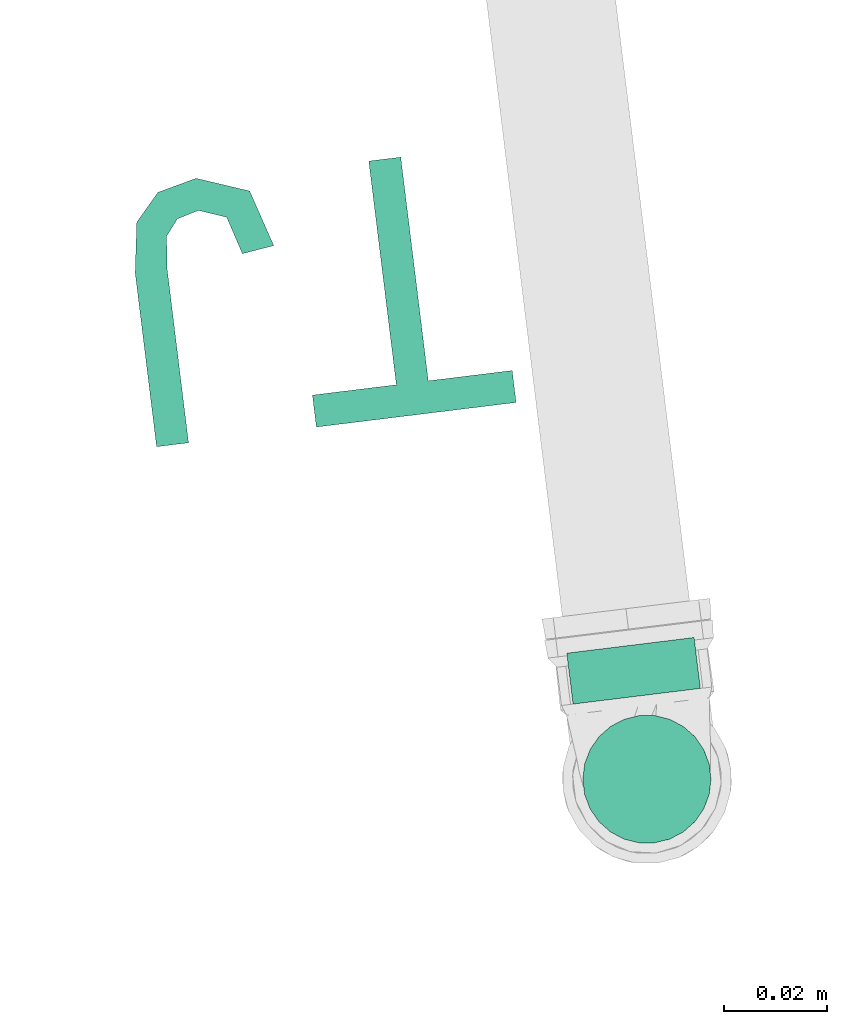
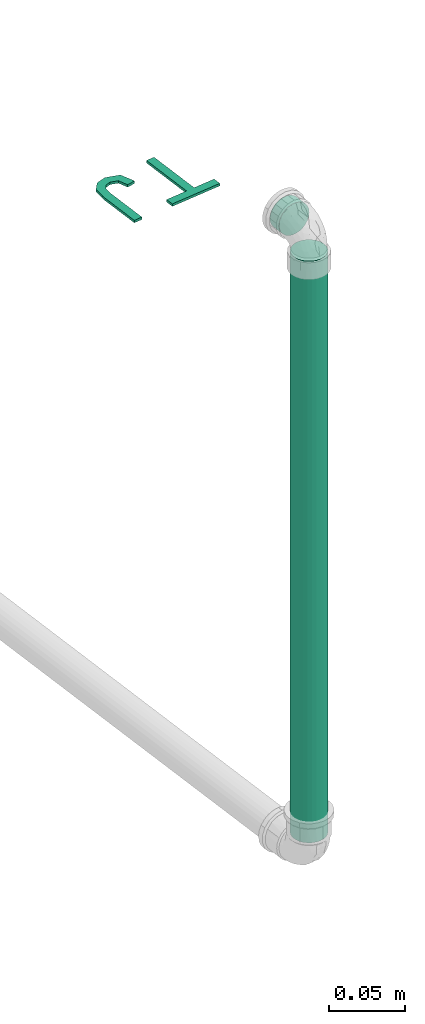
# One storey, part 59 of 97: 1 flow segment, 1 flow terminal.
"""IFC2X3 building model written with IfcOpenShell, lengths in centimetres."""

from ifc_helpers import new_model, entity, si_unit, converted_unit, derived_unit, direction, frame, frame_2d, origin, origin_2d_with_axis, place, context, subcontext, project, spatial, polyline, circle, outline, extrude, source, transform, mapped, material, material_list, type_object, type_shapes, element, save


model = new_model("IFC2X3")

# Units and contexts
model_context = context("Model", 3, precision=0.001, world=origin(), true_north=direction((6.12303176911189e-17, 1.0)))
body_context = subcontext(model_context, "Body", "Model", "MODEL_VIEW")
ifc_project = project(units=[si_unit("LENGTHUNIT", "METRE", prefix="CENTI"), si_unit("AREAUNIT", "SQUARE_METRE"), si_unit("VOLUMEUNIT", "CUBIC_METRE"), converted_unit("PLANEANGLEUNIT", "DEGREE", entity("IfcRatioMeasure", 0.0174532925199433), si_unit("PLANEANGLEUNIT", "RADIAN"), dimensions=[0, 0, 0, 0, 0, 0, 0]), si_unit("MASSUNIT", "GRAM", prefix="KILO"), derived_unit("MASSDENSITYUNIT", [(si_unit("MASSUNIT", "GRAM", prefix="KILO"), 1), (si_unit("LENGTHUNIT", "METRE"), -3)]), derived_unit("MOMENTOFINERTIAUNIT", [(si_unit("LENGTHUNIT", "METRE"), 4)]), si_unit("TIMEUNIT", "SECOND"), si_unit("FREQUENCYUNIT", "HERTZ"), si_unit("THERMODYNAMICTEMPERATUREUNIT", "DEGREE_CELSIUS"), derived_unit("THERMALTRANSMITTANCEUNIT", [(si_unit("MASSUNIT", "GRAM", prefix="KILO"), 1), (si_unit("THERMODYNAMICTEMPERATUREUNIT", "KELVIN"), -1), (si_unit("TIMEUNIT", "SECOND"), -3)]), derived_unit("VOLUMETRICFLOWRATEUNIT", [(si_unit("LENGTHUNIT", "METRE"), 3), (si_unit("TIMEUNIT", "SECOND"), -1)]), si_unit("ELECTRICCURRENTUNIT", "AMPERE"), si_unit("ELECTRICVOLTAGEUNIT", "VOLT"), si_unit("POWERUNIT", "WATT"), si_unit("FORCEUNIT", "NEWTON", prefix="KILO"), si_unit("ILLUMINANCEUNIT", "LUX"), si_unit("LUMINOUSFLUXUNIT", "LUMEN"), si_unit("LUMINOUSINTENSITYUNIT", "CANDELA"), derived_unit("USERDEFINED", [(si_unit("MASSUNIT", "GRAM", prefix="KILO"), -1), (si_unit("LENGTHUNIT", "METRE"), -2), (si_unit("TIMEUNIT", "SECOND"), 3), (si_unit("LUMINOUSFLUXUNIT", "LUMEN"), 1)]), derived_unit("LINEARVELOCITYUNIT", [(si_unit("LENGTHUNIT", "METRE"), 1), (si_unit("TIMEUNIT", "SECOND"), -1)]), si_unit("PRESSUREUNIT", "PASCAL"), derived_unit("USERDEFINED", [(si_unit("LENGTHUNIT", "METRE"), -2), (si_unit("MASSUNIT", "GRAM", prefix="KILO"), 1), (si_unit("TIMEUNIT", "SECOND"), -2)]), derived_unit("LINEARFORCEUNIT", [(si_unit("MASSUNIT", "GRAM", prefix="KILO"), 1), (si_unit("LENGTHUNIT", "METRE"), 1), (si_unit("TIMEUNIT", "SECOND"), -2), (si_unit("LENGTHUNIT", "METRE"), -1)]), derived_unit("PLANARFORCEUNIT", [(si_unit("MASSUNIT", "GRAM", prefix="KILO"), 1), (si_unit("LENGTHUNIT", "METRE"), 1), (si_unit("TIMEUNIT", "SECOND"), -2), (si_unit("LENGTHUNIT", "METRE"), -2)])], contexts=[model_context])

# Site, building, storey
site_placement = place(None, origin())
site = spatial("IfcSite", under=ifc_project, at=site_placement, Name="Default", CompositionType="ELEMENT")
building_placement = place(site_placement, origin())
building = spatial("IfcBuilding", under=site, at=building_placement, Name="HIDROSSANITÁRIO", CompositionType="ELEMENT")
storey_placement = place(building_placement, frame((0.0, 0.0, -260.0)))
storey = spatial("IfcBuildingStorey", under=building, at=storey_placement, Name="TÉRREO-HID", CompositionType="ELEMENT", Elevation=-260.0)

# Flow segment
pipe_segment_type = type_object("IfcPipeSegmentType", Name="Tipos de tubos:Tubo Marrom - Água Fria - Soldável", PredefinedType="NOTDEFINED")
flow_segment_placement = place(storey_placement, origin())
element("IfcFlowSegment", 1, at=flow_segment_placement, inside=storey, type_object=pipe_segment_type, Name="Tipos de tubos:Tubo Marrom - Água Fria - Soldável", ObjectType="Tipos de tubos:Tubo Marrom - Água Fria - Soldável", context=body_context, shape_type="SweptSolid", body=[
    extrude(circle(Radius=1.25, at=origin_2d_with_axis()), frame((2031.67395850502, 3517.50210794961, -18.46), z_axis=(-4.31884820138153e-06, -5.31575279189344e-07, 1.0), x_axis=(-1.0, 0.0, -4.31884820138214e-06)), (0.0, 0.0, 1.0), 46.8300000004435),
])

# Flow terminal
ifc_material_1 = material(Name=".ID PONTOS DE CONSUMO")
ifc_material_2 = material(Name="<Unnamed>")
ifc_material_list_1 = material_list([ifc_material_1, ifc_material_2])
ifc_material_list_2 = material_list([ifc_material_1, ifc_material_1, ifc_material_2])
distribution_element_type = type_object("IfcDistributionElementType", Name="Pontos de Consumo :TORNEIRA JARDIM", material=ifc_material_list_2)
shared_shape = source(origin(), body_context, "Body", "SweptSolid", [
    extrude(outline(polyline([(-0.313925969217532, -3.45318566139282), (0.313925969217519, -3.45318566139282), (0.313925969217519, 0.941777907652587), (1.96203730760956, 0.941777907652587), (1.96203730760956, 1.56962984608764), (-1.96203730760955, 1.56962984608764), (-1.96203730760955, 0.941777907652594), (-0.313925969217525, 0.941777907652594), (-0.313925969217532, -3.45318566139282)])), frame((-3.5962124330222, 7.54241245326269, 0.0), z_axis=(0.0, 0.0, 1.0), x_axis=(-1.0, 0.0, 0.0)), (0.0, 0.0, 1.0), 0.2),
    extrude(outline(polyline([(-0.450956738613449, -1.56621722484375), (0.712677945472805, -1.56621722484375), (1.36205152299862, -0.710503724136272), (1.41119061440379, 0.0809590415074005), (1.04574212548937, 0.693262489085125), (0.15552303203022, 1.11993163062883), (-3.11652597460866, 2.10676864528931), (-3.29781788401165, 1.50566025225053), (-0.0152025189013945, 0.51563646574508), (0.560970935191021, 0.270778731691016), (0.784949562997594, -0.0567809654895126), (0.769441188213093, -0.501034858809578), (0.425107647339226, -0.950504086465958), (-0.347151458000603, -0.94173917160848), (-0.450956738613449, -1.56621722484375)])), frame((-7.58037444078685, 9.56488751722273, 0.0), z_axis=(0.0, 0.0, 1.0), x_axis=(-0.288749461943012, 0.957404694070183, 0.0)), (0.0, 0.0, 1.0), 0.2),
    extrude(circle(Radius=1.25, at=frame_2d((-6.58881963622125e-17, -2.01943071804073e-15), x_axis=(1.0, 0.0))), frame((0.0, 0.0, 0.0), z_axis=(0.0, 1.0, 0.0), x_axis=(1.0, 0.0, 0.0)), (0.0, 0.0, 1.0), 1.0),
])
type_shapes(distribution_element_type, [shared_shape])
flow_terminal_placement = place(storey_placement, frame((2031.47463415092, 3519.11987488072, 30.0), z_axis=(0.0, 0.0, 1.0), x_axis=(0.992510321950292, 0.122160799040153, 0.0)))
element("IfcFlowTerminal", 2, at=flow_terminal_placement, inside=storey, type_object=distribution_element_type, material=ifc_material_list_1, Name="Pontos de Consumo :TORNEIRA JARDIM", ObjectType="Pontos de Consumo :TORNEIRA JARDIM", context=body_context, shape_type="MappedRepresentation", body=[
    mapped(shared_shape, transform((0.0, 0.0, 0.0), scale=1.0)),
])

save(model, "model.ifc")
